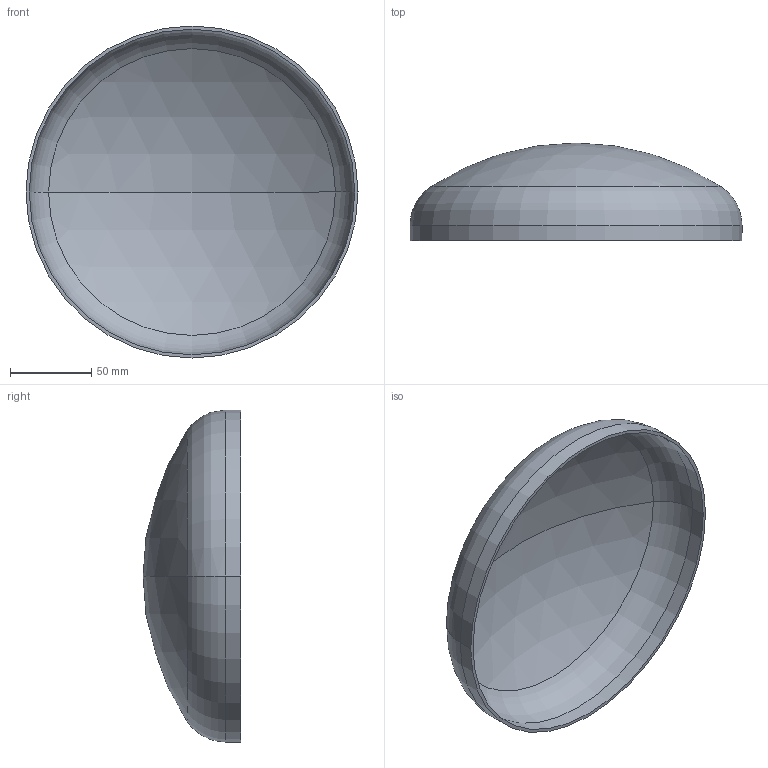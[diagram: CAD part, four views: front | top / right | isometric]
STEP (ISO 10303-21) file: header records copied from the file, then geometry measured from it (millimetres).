
FILE_DESCRIPTION (( 'STEP AP203' ), '1' );
FILE_NAME ('3D_R365_204x2_173371270.STEP', '2024-07-16T06:44:31', ( '' ), ( '' ), 'SwSTEP 2.0', 'SolidWorks 2024', '' );
FILE_SCHEMA (( 'CONFIG_CONTROL_DESIGN' ));
Length unit declared in the file: millimetre
Products named in the file (1): 3D_R365_204x2_173371270
Bounding box: 204 x 60 x 204 mm (x, y, z)
Volume: 98664.6 mm3; surface area: 99942.1 mm2
Topology: 1 solids, 1 shells, 13 faces, 24 edges, 14 vertices
Faces by surface type: sphere 4, torus 4, cylinder 4, plane 1
Entity records: 407 total; most frequent: DIRECTION 72, CARTESIAN_POINT 52, ORIENTED_EDGE 48, AXIS2_PLACEMENT_3D 34, EDGE_CURVE 24, CIRCLE 20, VERTEX_POINT 14, EDGE_LOOP 14
